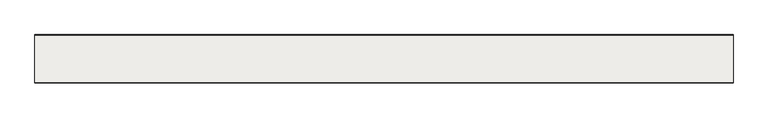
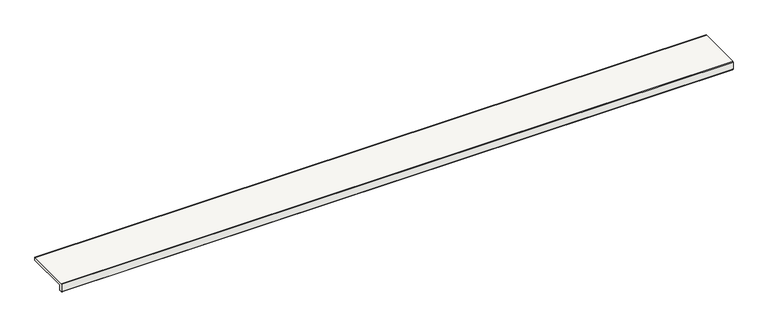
"""IFC4 building model written with IfcOpenShell, lengths in millimetres: slab geometry, ROSA GRES_L62 : Pieza L62_Pietro_White_Anti-Slip."""

from ifc_helpers import new_model, si_unit, point, frame, frame_2d, origin, place, context, project, spatial, polyline, circle_curve, trimmed, segment, composite_curve, outline, extrude, source, transform, mapped, element, save


def slab_31a55dce(model_context):
    return source(origin(), model_context, "Body", "SweptSolid", [
        extrude(outline(composite_curve([segment(polyline([(12.1001991, -37.0), (9.4054777, -37.0)]), True, "CONTINUOUS"), segment(trimmed(circle_curve(frame_2d((7.4142134, -37.0)), 1.9912643), [point((9.4054777, -37.0))], [point((5.422949, -37.0))], True, "CARTESIAN"), True, "CONTINUOUS"), segment(polyline([(5.422949, -37.0), (2.5, -37.0)]), True, "CONTINUOUS"), segment(trimmed(circle_curve(frame_2d((2.5, -34.5)), 2.5), [point((2.5, -37.0))], [point((0.0, -34.5))], False, "CARTESIAN"), True, "CONTINUOUS"), segment(polyline([(0.0, -34.5), (0.0, -2.5), (2.5, 0.0), (197.5, 0.0), (200.0, -0.0523013), (200.0, -13.9413919), (16.6422322, -13.9413919)]), True, "CONTINUOUS"), segment(trimmed(circle_curve(frame_2d((16.6422322, -16.5836242)), 2.6422322), [point((16.6422322, -13.9413919))], [point((14.0, -16.5836242))], True, "CARTESIAN"), True, "CONTINUOUS"), segment(polyline([(14.0, -16.5836242), (14.0, -35.1001991)]), True, "CONTINUOUS"), segment(trimmed(circle_curve(frame_2d((12.1001991, -35.1001991)), 1.8998009), [point((14.0, -35.1001991))], [point((12.1001991, -37.0))], False, "CARTESIAN"), True, "CONTINUOUS")], self_intersect=False)), frame((0.0, 0.0, 0.0), z_axis=(1.0, 0.0, 0.0), x_axis=(0.0, 1.0, 0.0)), (0.0, 0.0, 1.0), 2884.5),
    ])


if __name__ == "__main__":
    model = new_model("IFC4")
    model_context = context("Model", 3, world=origin())
    ifc_project = project(units=[si_unit("LENGTHUNIT", "METRE", prefix="MILLI")], contexts=[model_context])
    site = spatial("IfcSite", under=ifc_project)
    building = spatial("IfcBuilding", under=site)
    placement = place(None, origin())
    slab_shape = slab_31a55dce(model_context)
    element("IfcSlab", 1, ObjectType="ROSA GRES_L62 : Pieza L62_Pietro_White_Anti-Slip", at=placement, inside=building, context=model_context, shape_type="MappedRepresentation", body=[
        mapped(slab_shape, transform((0.0, 0.0, 0.0), x_axis=(1.0, 0.0, 0.0), y_axis=(0.0, 1.0, 0.0), z_axis=(0.0, 0.0, 1.0))),
    ])
    save(model, "model.ifc")
